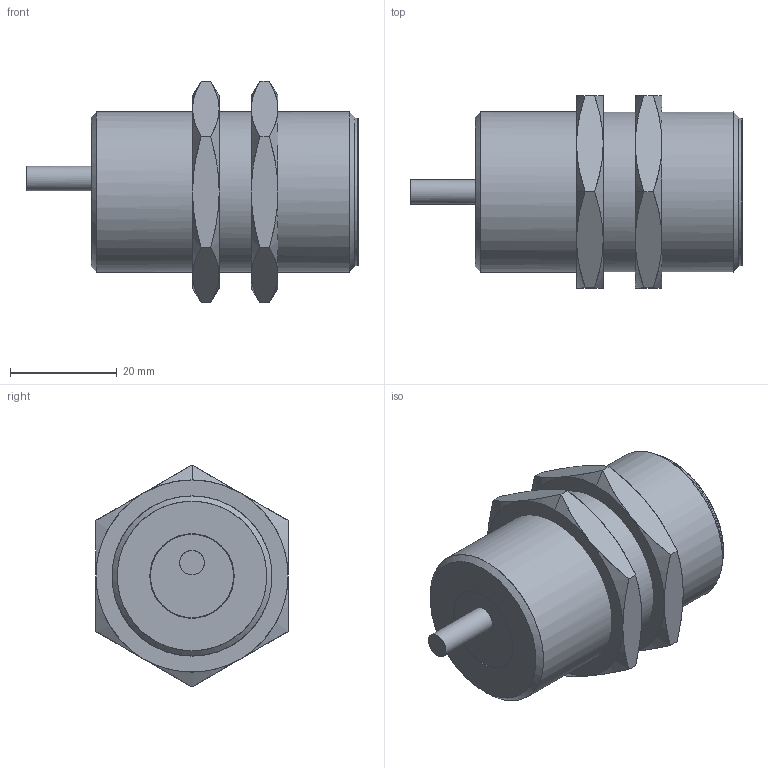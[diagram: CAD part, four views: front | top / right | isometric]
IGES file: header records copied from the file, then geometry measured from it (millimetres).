
Start section: C
Global section: file name: IR30.xxxx-F50.xxxx.7BCV.igs; native system:  By UGS Corp.; preprocessor: XPlus GENERIC/IGES 3.0; author: Author; organization: Title; date: 20161018.134311; units: millimetre
Bounding box: 62.2 x 36 x 41.56 mm (x, y, z)
Surface area: 10079.5 mm2 (no closed solid volume)
Topology: 0 solids, 0 shells, 72 faces, 350 edges, 350 vertices
Faces by surface type: bspline 72
